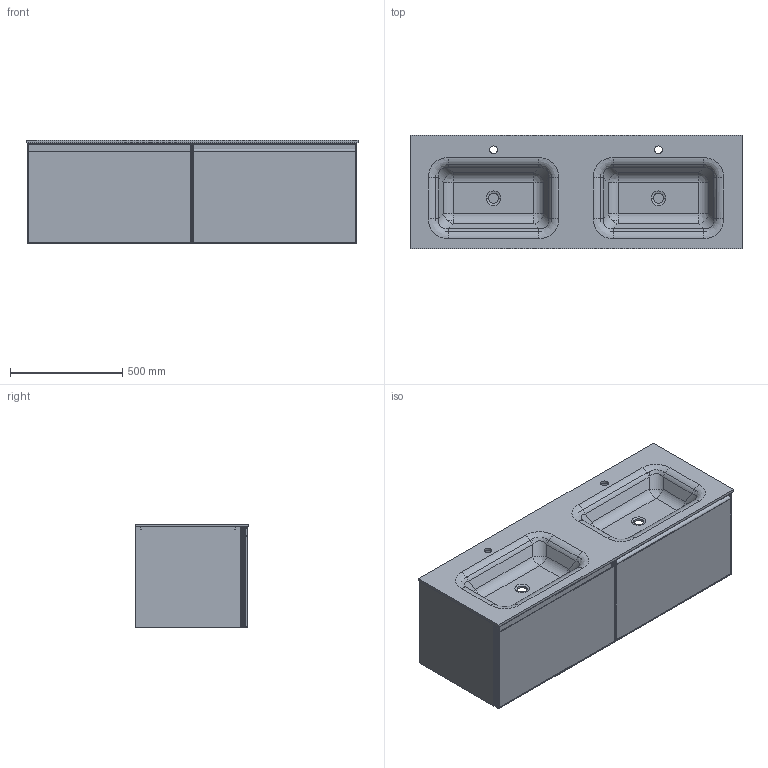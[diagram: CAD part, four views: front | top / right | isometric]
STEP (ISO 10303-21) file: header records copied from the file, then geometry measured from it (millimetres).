
FILE_DESCRIPTION (( 'STEP AP214' ), '1' );
FILE_NAME ('Boffi-1500.STEP', '2020-06-26T03:41:28', ( '' ), ( '' ), 'SwSTEP 2.0', 'SolidWorks 2020', '' );
FILE_SCHEMA (( 'AUTOMOTIVE_DESIGN' ));
Length unit declared in the file: millimetre
Products named in the file (4): Boffi-1500; errqwrsdafdsaffadsfwer-2; errqwrsdafdsaffadsfwer-3; Boffi-1500-1
Assembly tree (3 placements, depth 2):
  Boffi-1500
    errqwrsdafdsaffadsfwer-2
    errqwrsdafdsaffadsfwer-3
    Boffi-1500-1
Bounding box: 1478 x 505 x 462 mm (x, y, z)
Volume: 66046616.1 mm3; surface area: 10726887.4 mm2
Topology: 45 solids, 45 shells, 676 faces, 1666 edges, 1084 vertices
Faces by surface type: plane 506, cylinder 138, bspline 28, cone 4
Entity records: 24436 total; most frequent: CARTESIAN_POINT 8426, ORIENTED_EDGE 3316, DIRECTION 2902, EDGE_CURVE 1658, LINE 1354, VECTOR 1354, VERTEX_POINT 1084, AXIS2_PLACEMENT_3D 774
